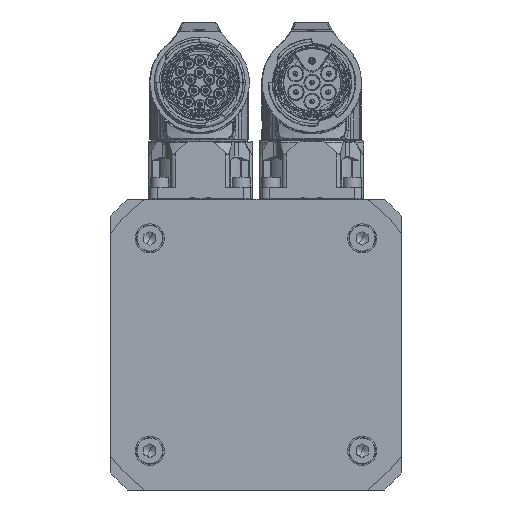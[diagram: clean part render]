
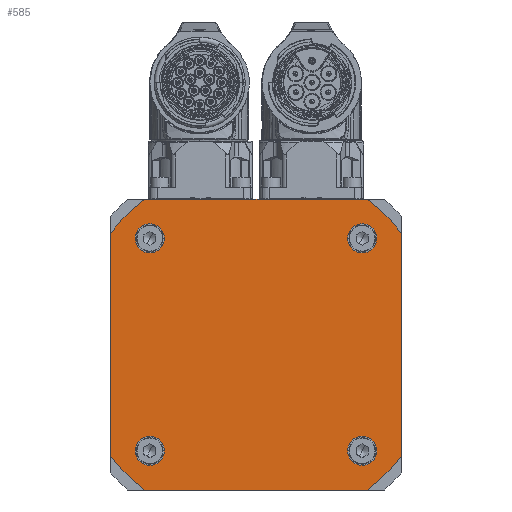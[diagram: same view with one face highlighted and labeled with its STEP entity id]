
A CAD part, left-side view. The second image highlights one B-rep face of the part: STEP entity #585.
In plain terms, the highlighted planar face has unit normal (-1, 0, 0).
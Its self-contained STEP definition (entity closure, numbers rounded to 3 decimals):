
#71=CARTESIAN_POINT('Cartesian Point',(0.,22.997,30.)) ;
#87=CARTESIAN_POINT('Cartesian Point',(0.,30.,22.997)) ;
#90=CARTESIAN_POINT('Axis2P3D Location',(0.,0.,0.)) ;
#114=CARTESIAN_POINT('Line Origine',(0.,0.,30.)) ;
#118=CARTESIAN_POINT('Cartesian Point',(0.,-22.997,30.)) ;
#450=CARTESIAN_POINT('Cartesian Point',(0.,30.,-22.997)) ;
#453=CARTESIAN_POINT('Line Origine',(0.,30.,0.)) ;
#465=CARTESIAN_POINT('Axis2P3D Location',(0.,0.,0.)) ;
#470=CARTESIAN_POINT('Line Origine',(0.,-30.,0.)) ;
#474=CARTESIAN_POINT('Cartesian Point',(0.,-30.,22.997)) ;
#476=CARTESIAN_POINT('Cartesian Point',(0.,-30.,-22.997)) ;
#479=CARTESIAN_POINT('Axis2P3D Location',(0.,0.,0.)) ;
#484=CARTESIAN_POINT('Axis2P3D Location',(0.,0.,0.)) ;
#488=CARTESIAN_POINT('Cartesian Point',(0.,22.997,-30.)) ;
#491=CARTESIAN_POINT('Line Origine',(0.,0.,-30.)) ;
#495=CARTESIAN_POINT('Cartesian Point',(0.,-22.997,-30.)) ;
#498=CARTESIAN_POINT('Axis2P3D Location',(0.,0.,0.)) ;
#513=CARTESIAN_POINT('Axis2P3D Location',(0.,-21.92,-21.92)) ;
#517=CARTESIAN_POINT('Cartesian Point',(0.,-24.92,-21.92)) ;
#519=CARTESIAN_POINT('Cartesian Point',(0.,-18.92,-21.92)) ;
#522=CARTESIAN_POINT('Axis2P3D Location',(0.,-21.92,-21.92)) ;
#531=CARTESIAN_POINT('Axis2P3D Location',(0.,21.92,-21.92)) ;
#535=CARTESIAN_POINT('Cartesian Point',(0.,18.92,-21.92)) ;
#537=CARTESIAN_POINT('Cartesian Point',(0.,24.92,-21.92)) ;
#540=CARTESIAN_POINT('Axis2P3D Location',(0.,21.92,-21.92)) ;
#549=CARTESIAN_POINT('Axis2P3D Location',(0.,-21.92,21.92)) ;
#553=CARTESIAN_POINT('Cartesian Point',(0.,-24.92,21.92)) ;
#555=CARTESIAN_POINT('Cartesian Point',(0.,-18.92,21.92)) ;
#558=CARTESIAN_POINT('Axis2P3D Location',(0.,-21.92,21.92)) ;
#567=CARTESIAN_POINT('Axis2P3D Location',(0.,21.92,21.92)) ;
#571=CARTESIAN_POINT('Cartesian Point',(0.,18.92,21.92)) ;
#573=CARTESIAN_POINT('Cartesian Point',(0.,24.92,21.92)) ;
#576=CARTESIAN_POINT('Axis2P3D Location',(0.,21.92,21.92)) ;
#91=DIRECTION('Axis2P3D Direction',(1.,0.,0.)) ;
#115=DIRECTION('Vector Direction',(0.,1.,0.)) ;
#454=DIRECTION('Vector Direction',(0.,0.,1.)) ;
#466=DIRECTION('Axis2P3D Direction',(1.,0.,0.)) ;
#467=DIRECTION('Axis2P3D XDirection',(0.,1.,0.)) ;
#471=DIRECTION('Vector Direction',(0.,0.,-1.)) ;
#480=DIRECTION('Axis2P3D Direction',(1.,0.,0.)) ;
#485=DIRECTION('Axis2P3D Direction',(1.,0.,0.)) ;
#492=DIRECTION('Vector Direction',(0.,-1.,0.)) ;
#499=DIRECTION('Axis2P3D Direction',(1.,0.,0.)) ;
#514=DIRECTION('Axis2P3D Direction',(1.,0.,0.)) ;
#523=DIRECTION('Axis2P3D Direction',(1.,0.,0.)) ;
#532=DIRECTION('Axis2P3D Direction',(1.,0.,0.)) ;
#541=DIRECTION('Axis2P3D Direction',(1.,0.,0.)) ;
#550=DIRECTION('Axis2P3D Direction',(1.,0.,0.)) ;
#559=DIRECTION('Axis2P3D Direction',(1.,0.,0.)) ;
#568=DIRECTION('Axis2P3D Direction',(1.,0.,0.)) ;
#577=DIRECTION('Axis2P3D Direction',(1.,0.,0.)) ;
#92=AXIS2_PLACEMENT_3D('Circle Axis2P3D',#90,#91,$) ;
#468=AXIS2_PLACEMENT_3D('Plane Axis2P3D',#465,#466,#467) ;
#481=AXIS2_PLACEMENT_3D('Circle Axis2P3D',#479,#480,$) ;
#486=AXIS2_PLACEMENT_3D('Circle Axis2P3D',#484,#485,$) ;
#500=AXIS2_PLACEMENT_3D('Circle Axis2P3D',#498,#499,$) ;
#515=AXIS2_PLACEMENT_3D('Circle Axis2P3D',#513,#514,$) ;
#524=AXIS2_PLACEMENT_3D('Circle Axis2P3D',#522,#523,$) ;
#533=AXIS2_PLACEMENT_3D('Circle Axis2P3D',#531,#532,$) ;
#542=AXIS2_PLACEMENT_3D('Circle Axis2P3D',#540,#541,$) ;
#551=AXIS2_PLACEMENT_3D('Circle Axis2P3D',#549,#550,$) ;
#560=AXIS2_PLACEMENT_3D('Circle Axis2P3D',#558,#559,$) ;
#569=AXIS2_PLACEMENT_3D('Circle Axis2P3D',#567,#568,$) ;
#578=AXIS2_PLACEMENT_3D('Circle Axis2P3D',#576,#577,$) ;
#504=ORIENTED_EDGE('Oriented Edge',*,*,#478,.F.) ;
#505=ORIENTED_EDGE('Oriented Edge',*,*,#483,.F.) ;
#506=ORIENTED_EDGE('Oriented Edge',*,*,#120,.F.) ;
#507=ORIENTED_EDGE('Oriented Edge',*,*,#94,.F.) ;
#508=ORIENTED_EDGE('Oriented Edge',*,*,#457,.F.) ;
#509=ORIENTED_EDGE('Oriented Edge',*,*,#490,.F.) ;
#510=ORIENTED_EDGE('Oriented Edge',*,*,#497,.F.) ;
#511=ORIENTED_EDGE('Oriented Edge',*,*,#502,.F.) ;
#528=ORIENTED_EDGE('Oriented Edge',*,*,#521,.F.) ;
#529=ORIENTED_EDGE('Oriented Edge',*,*,#526,.F.) ;
#546=ORIENTED_EDGE('Oriented Edge',*,*,#539,.F.) ;
#547=ORIENTED_EDGE('Oriented Edge',*,*,#544,.F.) ;
#564=ORIENTED_EDGE('Oriented Edge',*,*,#557,.F.) ;
#565=ORIENTED_EDGE('Oriented Edge',*,*,#562,.F.) ;
#582=ORIENTED_EDGE('Oriented Edge',*,*,#575,.F.) ;
#583=ORIENTED_EDGE('Oriented Edge',*,*,#580,.F.) ;
#530=FACE_BOUND('Face Bound',#527,.T.) ;
#548=FACE_BOUND('Face Bound',#545,.T.) ;
#566=FACE_BOUND('Face Bound',#563,.T.) ;
#584=FACE_BOUND('Face Bound',#581,.T.) ;
#116=VECTOR('Line Direction',#115,1.) ;
#455=VECTOR('Line Direction',#454,1.) ;
#472=VECTOR('Line Direction',#471,1.) ;
#493=VECTOR('Line Direction',#492,1.) ;
#585=ADVANCED_FACE('',(#512,#530,#548,#566,#584),#469,.F.) ;
#93=CIRCLE('generated circle',#92,37.8) ;
#482=CIRCLE('generated circle',#481,37.8) ;
#487=CIRCLE('generated circle',#486,37.8) ;
#501=CIRCLE('generated circle',#500,37.8) ;
#516=CIRCLE('generated circle',#515,3.) ;
#525=CIRCLE('generated circle',#524,3.) ;
#534=CIRCLE('generated circle',#533,3.) ;
#543=CIRCLE('generated circle',#542,3.) ;
#552=CIRCLE('generated circle',#551,3.) ;
#561=CIRCLE('generated circle',#560,3.) ;
#570=CIRCLE('generated circle',#569,3.) ;
#579=CIRCLE('generated circle',#578,3.) ;
#94=EDGE_CURVE('',#88,#72,#93,.T.) ;
#120=EDGE_CURVE('',#72,#119,#117,.F.) ;
#457=EDGE_CURVE('',#451,#88,#456,.T.) ;
#478=EDGE_CURVE('',#475,#477,#473,.T.) ;
#483=EDGE_CURVE('',#119,#475,#482,.T.) ;
#490=EDGE_CURVE('',#489,#451,#487,.T.) ;
#497=EDGE_CURVE('',#496,#489,#494,.F.) ;
#502=EDGE_CURVE('',#477,#496,#501,.T.) ;
#521=EDGE_CURVE('',#518,#520,#516,.F.) ;
#526=EDGE_CURVE('',#520,#518,#525,.F.) ;
#539=EDGE_CURVE('',#536,#538,#534,.F.) ;
#544=EDGE_CURVE('',#538,#536,#543,.F.) ;
#557=EDGE_CURVE('',#554,#556,#552,.F.) ;
#562=EDGE_CURVE('',#556,#554,#561,.F.) ;
#575=EDGE_CURVE('',#572,#574,#570,.F.) ;
#580=EDGE_CURVE('',#574,#572,#579,.F.) ;
#503=EDGE_LOOP('Oriented Loop',(#504,#505,#506,#507,#508,#509,#510,#511)) ;
#527=EDGE_LOOP('Oriented Loop',(#528,#529)) ;
#545=EDGE_LOOP('Oriented Loop',(#546,#547)) ;
#563=EDGE_LOOP('Oriented Loop',(#564,#565)) ;
#581=EDGE_LOOP('Oriented Loop',(#582,#583)) ;
#512=FACE_OUTER_BOUND('Face Bound',#503,.T.) ;
#117=LINE('Line',#114,#116) ;
#456=LINE('Line',#453,#455) ;
#473=LINE('Line',#470,#472) ;
#494=LINE('Line',#491,#493) ;
#469=PLANE('Plane',#468) ;
#72=VERTEX_POINT('Vertex Point',#71) ;
#88=VERTEX_POINT('Vertex Point',#87) ;
#119=VERTEX_POINT('Vertex Point',#118) ;
#451=VERTEX_POINT('Vertex Point',#450) ;
#475=VERTEX_POINT('Vertex Point',#474) ;
#477=VERTEX_POINT('Vertex Point',#476) ;
#489=VERTEX_POINT('Vertex Point',#488) ;
#496=VERTEX_POINT('Vertex Point',#495) ;
#518=VERTEX_POINT('Vertex Point',#517) ;
#520=VERTEX_POINT('Vertex Point',#519) ;
#536=VERTEX_POINT('Vertex Point',#535) ;
#538=VERTEX_POINT('Vertex Point',#537) ;
#554=VERTEX_POINT('Vertex Point',#553) ;
#556=VERTEX_POINT('Vertex Point',#555) ;
#572=VERTEX_POINT('Vertex Point',#571) ;
#574=VERTEX_POINT('Vertex Point',#573) ;
